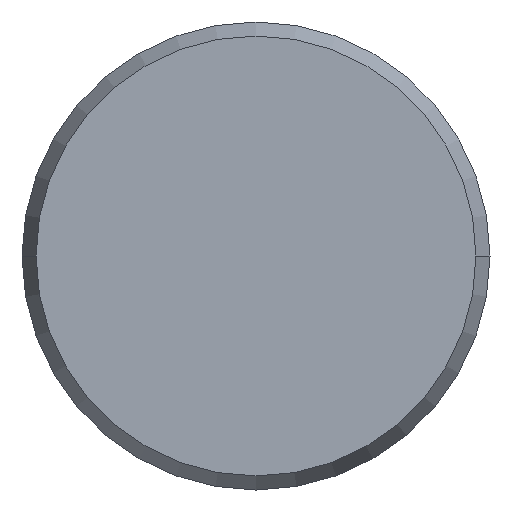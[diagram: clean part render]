
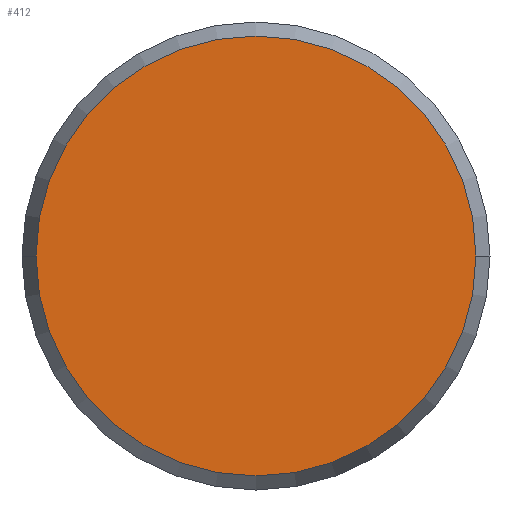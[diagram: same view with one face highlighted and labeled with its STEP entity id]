
A CAD part, front view. The second image highlights one B-rep face of the part: STEP entity #412.
In plain terms, the highlighted planar face has unit normal (0, -1, 0).
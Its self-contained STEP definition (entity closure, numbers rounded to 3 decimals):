
#321=CARTESIAN_POINT('',(0.,0.,0.));
#322=DIRECTION('',(0.,-1.,0.));
#323=DIRECTION('',(-1.,0.,0.));
#324=AXIS2_PLACEMENT_3D('',#321,#322,#323);
#326=CARTESIAN_POINT('',(0.,0.,0.));
#327=DIRECTION('',(0.,-1.,0.));
#328=DIRECTION('',(1.,0.,0.));
#329=AXIS2_PLACEMENT_3D('',#326,#327,#328);
#393=CARTESIAN_POINT('',(-0.94,0.,0.));
#394=CARTESIAN_POINT('',(0.94,0.,0.));
#395=VERTEX_POINT('',#393);
#396=VERTEX_POINT('',#394);
#401=CARTESIAN_POINT('',(0.,0.,0.));
#402=DIRECTION('',(0.,1.,0.));
#403=DIRECTION('',(1.,0.,0.));
#404=AXIS2_PLACEMENT_3D('',#401,#402,#403);
#405=PLANE('',#404);
#407=ORIENTED_EDGE('',*,*,#406,.F.);
#409=ORIENTED_EDGE('',*,*,#408,.F.);
#410=EDGE_LOOP('',(#407,#409));
#411=FACE_OUTER_BOUND('',#410,.F.);
#412=ADVANCED_FACE('',(#411),#405,.F.);
#325=CIRCLE('',#324,0.94);
#330=CIRCLE('',#329,0.94);
#406=EDGE_CURVE('',#395,#396,#325,.T.);
#408=EDGE_CURVE('',#396,#395,#330,.T.);
